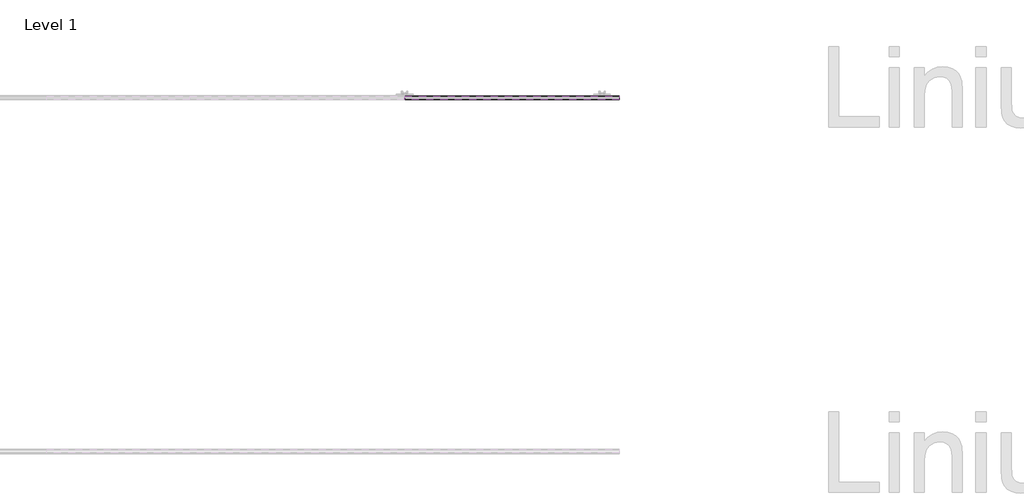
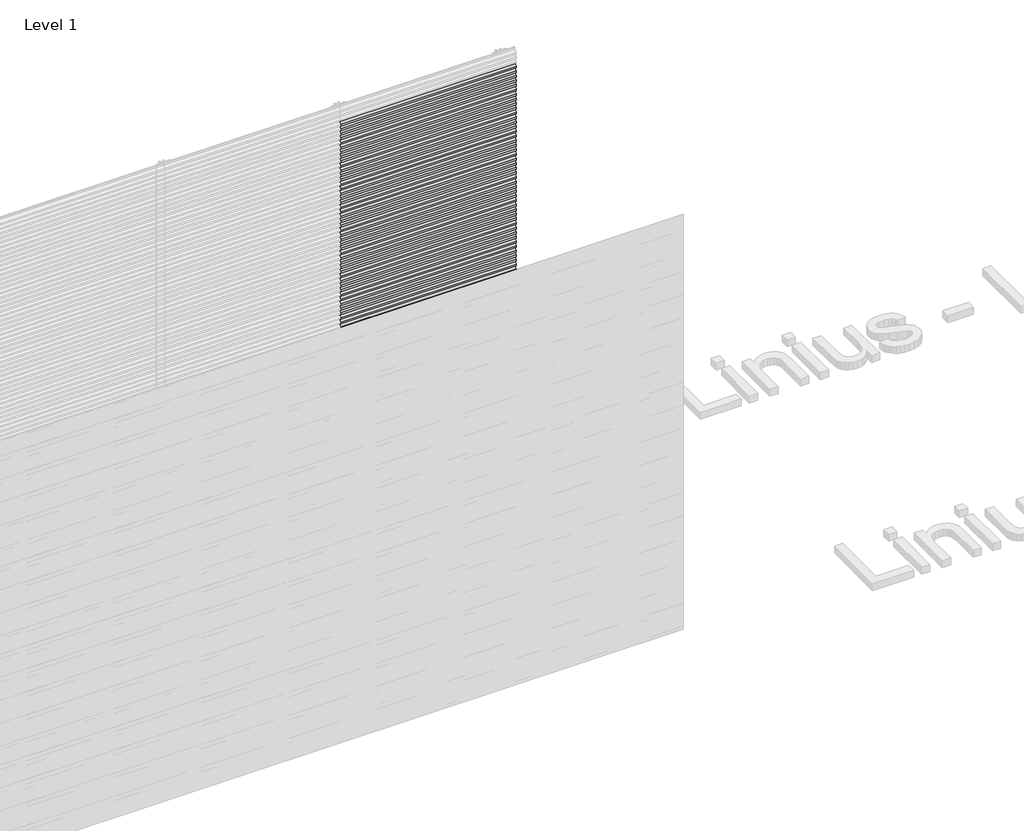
# One storey, part 22 of 507: 84 proxies.
"""IFC4 building model written with IfcOpenShell, lengths in millimetres."""

from ifc_helpers import new_model, si_unit, frame, origin, place, context, project, spatial, polyline, outline, extrude, element, save

model = new_model("IFC4")

# Units and contexts
model_context = context("Model", 3, world=origin())
ifc_project = project(units=[si_unit("LENGTHUNIT", "METRE", prefix="MILLI")], contexts=[model_context])

# Site, building, storey
site = spatial("IfcSite", under=ifc_project)
building = spatial("IfcBuilding", under=site)
storey = spatial("IfcBuildingStorey", under=building, Name="Level 1", Elevation=0.0)

# Proxies
placement = place(None, origin())
element("IfcBuildingElementProxy", 1, Name="Wall Sweeps", at=placement, inside=storey, context=model_context, shape_type="SweptSolid", body=[
    extrude(outline(polyline([(6962.6270068, 2873.1), (6981.7770068, 2884.1562577), (6981.7770068, 2897.1), (6983.0270068, 2897.1), (6983.0270068, 2883.4345698), (6963.8770068, 2872.3782281), (6963.8770068, 2860.3216933), (6962.6270068, 2859.6), (6962.6270068, 2873.1)])), frame((49766.6208095, 0.0, 0.0), z_axis=(1.0, 0.0, 0.0), x_axis=(0.0, 1.0, 0.0)), (0.0, 0.0, 1.0), 1200.0000002),
])
element("IfcBuildingElementProxy", 2, Name="Wall Sweeps", at=placement, inside=storey, context=model_context, shape_type="SweptSolid", body=[
    extrude(outline(polyline([(6962.6270068, 2839.8), (6981.7770068, 2850.8562577), (6981.7770068, 2863.8), (6983.0270068, 2863.8), (6983.0270068, 2850.1345698), (6963.8770068, 2839.0782281), (6963.8770068, 2827.0216933), (6962.6270068, 2826.3), (6962.6270068, 2839.8)])), frame((49766.6208095, 0.0, 0.0), z_axis=(1.0, 0.0, 0.0), x_axis=(0.0, 1.0, 0.0)), (0.0, 0.0, 1.0), 1200.0000002),
])
element("IfcBuildingElementProxy", 3, Name="Wall Sweeps", at=placement, inside=storey, context=model_context, shape_type="SweptSolid", body=[
    extrude(outline(polyline([(6962.6270068, 2806.5), (6981.7770068, 2817.5562577), (6981.7770068, 2830.5), (6983.0270068, 2830.5), (6983.0270068, 2816.8345698), (6963.8770068, 2805.7782281), (6963.8770068, 2793.7216933), (6962.6270068, 2793.0), (6962.6270068, 2806.5)])), frame((49766.6208095, 0.0, 0.0), z_axis=(1.0, 0.0, 0.0), x_axis=(0.0, 1.0, 0.0)), (0.0, 0.0, 1.0), 1200.0000002),
])
element("IfcBuildingElementProxy", 4, Name="Wall Sweeps", at=placement, inside=storey, context=model_context, shape_type="SweptSolid", body=[
    extrude(outline(polyline([(6962.6270068, 2773.2), (6981.7770068, 2784.2562577), (6981.7770068, 2797.2), (6983.0270068, 2797.2), (6983.0270068, 2783.5345698), (6963.8770068, 2772.4782281), (6963.8770068, 2760.4216933), (6962.6270068, 2759.7), (6962.6270068, 2773.2)])), frame((49766.6208095, 0.0, 0.0), z_axis=(1.0, 0.0, 0.0), x_axis=(0.0, 1.0, 0.0)), (0.0, 0.0, 1.0), 1200.0000002),
])
element("IfcBuildingElementProxy", 5, Name="Wall Sweeps", at=placement, inside=storey, context=model_context, shape_type="SweptSolid", body=[
    extrude(outline(polyline([(6962.6270068, 2739.9), (6981.7770068, 2750.9562577), (6981.7770068, 2763.9), (6983.0270068, 2763.9), (6983.0270068, 2750.2345698), (6963.8770068, 2739.1782281), (6963.8770068, 2727.1216933), (6962.6270068, 2726.4), (6962.6270068, 2739.9)])), frame((49766.6208095, 0.0, 0.0), z_axis=(1.0, 0.0, 0.0), x_axis=(0.0, 1.0, 0.0)), (0.0, 0.0, 1.0), 1200.0000002),
])
element("IfcBuildingElementProxy", 6, Name="Wall Sweeps", at=placement, inside=storey, context=model_context, shape_type="SweptSolid", body=[
    extrude(outline(polyline([(6962.6270068, 2706.6), (6981.7770068, 2717.6562577), (6981.7770068, 2730.6), (6983.0270068, 2730.6), (6983.0270068, 2716.9345698), (6963.8770068, 2705.8782281), (6963.8770068, 2693.8216933), (6962.6270068, 2693.1), (6962.6270068, 2706.6)])), frame((49766.6208095, 0.0, 0.0), z_axis=(1.0, 0.0, 0.0), x_axis=(0.0, 1.0, 0.0)), (0.0, 0.0, 1.0), 1200.0000002),
])
element("IfcBuildingElementProxy", 7, Name="Wall Sweeps", at=placement, inside=storey, context=model_context, shape_type="SweptSolid", body=[
    extrude(outline(polyline([(6962.6270068, 2673.3), (6981.7770068, 2684.3562577), (6981.7770068, 2697.3), (6983.0270068, 2697.3), (6983.0270068, 2683.6345698), (6963.8770068, 2672.5782281), (6963.8770068, 2660.5216933), (6962.6270068, 2659.8), (6962.6270068, 2673.3)])), frame((49766.6208095, 0.0, 0.0), z_axis=(1.0, 0.0, 0.0), x_axis=(0.0, 1.0, 0.0)), (0.0, 0.0, 1.0), 1200.0000002),
])
element("IfcBuildingElementProxy", 8, Name="Wall Sweeps", at=placement, inside=storey, context=model_context, shape_type="SweptSolid", body=[
    extrude(outline(polyline([(6962.6270068, 2640.0), (6981.7770068, 2651.0562577), (6981.7770068, 2664.0), (6983.0270068, 2664.0), (6983.0270068, 2650.3345698), (6963.8770068, 2639.2782281), (6963.8770068, 2627.2216933), (6962.6270068, 2626.5), (6962.6270068, 2640.0)])), frame((49766.6208095, 0.0, 0.0), z_axis=(1.0, 0.0, 0.0), x_axis=(0.0, 1.0, 0.0)), (0.0, 0.0, 1.0), 1200.0000002),
])
element("IfcBuildingElementProxy", 9, Name="Wall Sweeps", at=placement, inside=storey, context=model_context, shape_type="SweptSolid", body=[
    extrude(outline(polyline([(6962.6270068, 2606.7), (6981.7770068, 2617.7562577), (6981.7770068, 2630.7), (6983.0270068, 2630.7), (6983.0270068, 2617.0345698), (6963.8770068, 2605.9782281), (6963.8770068, 2593.9216933), (6962.6270068, 2593.2), (6962.6270068, 2606.7)])), frame((49766.6208095, 0.0, 0.0), z_axis=(1.0, 0.0, 0.0), x_axis=(0.0, 1.0, 0.0)), (0.0, 0.0, 1.0), 1200.0000002),
])
element("IfcBuildingElementProxy", 10, Name="Wall Sweeps", at=placement, inside=storey, context=model_context, shape_type="SweptSolid", body=[
    extrude(outline(polyline([(6962.6270068, 2573.4), (6981.7770068, 2584.4562577), (6981.7770068, 2597.4), (6983.0270068, 2597.4), (6983.0270068, 2583.7345698), (6963.8770068, 2572.6782281), (6963.8770068, 2560.6216933), (6962.6270068, 2559.9), (6962.6270068, 2573.4)])), frame((49766.6208095, 0.0, 0.0), z_axis=(1.0, 0.0, 0.0), x_axis=(0.0, 1.0, 0.0)), (0.0, 0.0, 1.0), 1200.0000002),
])
element("IfcBuildingElementProxy", 11, Name="Wall Sweeps", at=placement, inside=storey, context=model_context, shape_type="SweptSolid", body=[
    extrude(outline(polyline([(6962.6270068, 2540.1), (6981.7770068, 2551.1562577), (6981.7770068, 2564.1), (6983.0270068, 2564.1), (6983.0270068, 2550.4345698), (6963.8770068, 2539.3782281), (6963.8770068, 2527.3216933), (6962.6270068, 2526.6), (6962.6270068, 2540.1)])), frame((49766.6208095, 0.0, 0.0), z_axis=(1.0, 0.0, 0.0), x_axis=(0.0, 1.0, 0.0)), (0.0, 0.0, 1.0), 1200.0000002),
])
element("IfcBuildingElementProxy", 12, Name="Wall Sweeps", at=placement, inside=storey, context=model_context, shape_type="SweptSolid", body=[
    extrude(outline(polyline([(6962.6270068, 2506.8), (6981.7770068, 2517.8562577), (6981.7770068, 2530.8), (6983.0270068, 2530.8), (6983.0270068, 2517.1345698), (6963.8770068, 2506.0782281), (6963.8770068, 2494.0216933), (6962.6270068, 2493.3), (6962.6270068, 2506.8)])), frame((49766.6208095, 0.0, 0.0), z_axis=(1.0, 0.0, 0.0), x_axis=(0.0, 1.0, 0.0)), (0.0, 0.0, 1.0), 1200.0000002),
])
element("IfcBuildingElementProxy", 13, Name="Wall Sweeps", at=placement, inside=storey, context=model_context, shape_type="SweptSolid", body=[
    extrude(outline(polyline([(6962.6270068, 2473.5), (6981.7770068, 2484.5562577), (6981.7770068, 2497.5), (6983.0270068, 2497.5), (6983.0270068, 2483.8345698), (6963.8770068, 2472.7782281), (6963.8770068, 2460.7216933), (6962.6270068, 2460.0), (6962.6270068, 2473.5)])), frame((49766.6208095, 0.0, 0.0), z_axis=(1.0, 0.0, 0.0), x_axis=(0.0, 1.0, 0.0)), (0.0, 0.0, 1.0), 1200.0000002),
])
element("IfcBuildingElementProxy", 14, Name="Wall Sweeps", at=placement, inside=storey, context=model_context, shape_type="SweptSolid", body=[
    extrude(outline(polyline([(6962.6270068, 2440.2), (6981.7770068, 2451.2562577), (6981.7770068, 2464.2), (6983.0270068, 2464.2), (6983.0270068, 2450.5345698), (6963.8770068, 2439.4782281), (6963.8770068, 2427.4216933), (6962.6270068, 2426.7), (6962.6270068, 2440.2)])), frame((49766.6208095, 0.0, 0.0), z_axis=(1.0, 0.0, 0.0), x_axis=(0.0, 1.0, 0.0)), (0.0, 0.0, 1.0), 1200.0000002),
])
element("IfcBuildingElementProxy", 15, Name="Wall Sweeps", at=placement, inside=storey, context=model_context, shape_type="SweptSolid", body=[
    extrude(outline(polyline([(6962.6270068, 2406.9), (6981.7770068, 2417.9562577), (6981.7770068, 2430.9), (6983.0270068, 2430.9), (6983.0270068, 2417.2345698), (6963.8770068, 2406.1782281), (6963.8770068, 2394.1216933), (6962.6270068, 2393.4), (6962.6270068, 2406.9)])), frame((49766.6208095, 0.0, 0.0), z_axis=(1.0, 0.0, 0.0), x_axis=(0.0, 1.0, 0.0)), (0.0, 0.0, 1.0), 1200.0000002),
])
element("IfcBuildingElementProxy", 16, Name="Wall Sweeps", at=placement, inside=storey, context=model_context, shape_type="SweptSolid", body=[
    extrude(outline(polyline([(6962.6270068, 2373.6), (6981.7770068, 2384.6562577), (6981.7770068, 2397.6), (6983.0270068, 2397.6), (6983.0270068, 2383.9345698), (6963.8770068, 2372.8782281), (6963.8770068, 2360.8216933), (6962.6270068, 2360.1), (6962.6270068, 2373.6)])), frame((49766.6208095, 0.0, 0.0), z_axis=(1.0, 0.0, 0.0), x_axis=(0.0, 1.0, 0.0)), (0.0, 0.0, 1.0), 1200.0000002),
])
element("IfcBuildingElementProxy", 17, Name="Wall Sweeps", at=placement, inside=storey, context=model_context, shape_type="SweptSolid", body=[
    extrude(outline(polyline([(6962.6270068, 2340.3), (6981.7770068, 2351.3562577), (6981.7770068, 2364.3), (6983.0270068, 2364.3), (6983.0270068, 2350.6345698), (6963.8770068, 2339.5782281), (6963.8770068, 2327.5216933), (6962.6270068, 2326.8), (6962.6270068, 2340.3)])), frame((49766.6208095, 0.0, 0.0), z_axis=(1.0, 0.0, 0.0), x_axis=(0.0, 1.0, 0.0)), (0.0, 0.0, 1.0), 1200.0000002),
])
element("IfcBuildingElementProxy", 18, Name="Wall Sweeps", at=placement, inside=storey, context=model_context, shape_type="SweptSolid", body=[
    extrude(outline(polyline([(6962.6270068, 2307.0), (6981.7770068, 2318.0562577), (6981.7770068, 2331.0), (6983.0270068, 2331.0), (6983.0270068, 2317.3345698), (6963.8770068, 2306.2782281), (6963.8770068, 2294.2216933), (6962.6270068, 2293.5), (6962.6270068, 2307.0)])), frame((49766.6208095, 0.0, 0.0), z_axis=(1.0, 0.0, 0.0), x_axis=(0.0, 1.0, 0.0)), (0.0, 0.0, 1.0), 1200.0000002),
])
element("IfcBuildingElementProxy", 19, Name="Wall Sweeps", at=placement, inside=storey, context=model_context, shape_type="SweptSolid", body=[
    extrude(outline(polyline([(6962.6270068, 2273.7), (6981.7770068, 2284.7562577), (6981.7770068, 2297.7), (6983.0270068, 2297.7), (6983.0270068, 2284.0345698), (6963.8770068, 2272.9782281), (6963.8770068, 2260.9216933), (6962.6270068, 2260.2), (6962.6270068, 2273.7)])), frame((49766.6208095, 0.0, 0.0), z_axis=(1.0, 0.0, 0.0), x_axis=(0.0, 1.0, 0.0)), (0.0, 0.0, 1.0), 1200.0000002),
])
element("IfcBuildingElementProxy", 20, Name="Wall Sweeps", at=placement, inside=storey, context=model_context, shape_type="SweptSolid", body=[
    extrude(outline(polyline([(6962.6270068, 2240.4), (6981.7770068, 2251.4562577), (6981.7770068, 2264.4), (6983.0270068, 2264.4), (6983.0270068, 2250.7345698), (6963.8770068, 2239.6782281), (6963.8770068, 2227.6216933), (6962.6270068, 2226.9), (6962.6270068, 2240.4)])), frame((49766.6208095, 0.0, 0.0), z_axis=(1.0, 0.0, 0.0), x_axis=(0.0, 1.0, 0.0)), (0.0, 0.0, 1.0), 1200.0000002),
])
element("IfcBuildingElementProxy", 21, Name="Wall Sweeps", at=placement, inside=storey, context=model_context, shape_type="SweptSolid", body=[
    extrude(outline(polyline([(6962.6270068, 2207.1), (6981.7770068, 2218.1562577), (6981.7770068, 2231.1), (6983.0270068, 2231.1), (6983.0270068, 2217.4345698), (6963.8770068, 2206.3782281), (6963.8770068, 2194.3216933), (6962.6270068, 2193.6), (6962.6270068, 2207.1)])), frame((49766.6208095, 0.0, 0.0), z_axis=(1.0, 0.0, 0.0), x_axis=(0.0, 1.0, 0.0)), (0.0, 0.0, 1.0), 1200.0000002),
])
element("IfcBuildingElementProxy", 22, Name="Wall Sweeps", at=placement, inside=storey, context=model_context, shape_type="SweptSolid", body=[
    extrude(outline(polyline([(6962.6270068, 2173.8), (6981.7770068, 2184.8562577), (6981.7770068, 2197.8), (6983.0270068, 2197.8), (6983.0270068, 2184.1345698), (6963.8770068, 2173.0782281), (6963.8770068, 2161.0216933), (6962.6270068, 2160.3), (6962.6270068, 2173.8)])), frame((49766.6208095, 0.0, 0.0), z_axis=(1.0, 0.0, 0.0), x_axis=(0.0, 1.0, 0.0)), (0.0, 0.0, 1.0), 1200.0000002),
])
element("IfcBuildingElementProxy", 23, Name="Wall Sweeps", at=placement, inside=storey, context=model_context, shape_type="SweptSolid", body=[
    extrude(outline(polyline([(6962.6270068, 2140.5), (6981.7770068, 2151.5562577), (6981.7770068, 2164.5), (6983.0270068, 2164.5), (6983.0270068, 2150.8345698), (6963.8770068, 2139.7782281), (6963.8770068, 2127.7216933), (6962.6270068, 2127.0), (6962.6270068, 2140.5)])), frame((49766.6208095, 0.0, 0.0), z_axis=(1.0, 0.0, 0.0), x_axis=(0.0, 1.0, 0.0)), (0.0, 0.0, 1.0), 1200.0000002),
])
element("IfcBuildingElementProxy", 24, Name="Wall Sweeps", at=placement, inside=storey, context=model_context, shape_type="SweptSolid", body=[
    extrude(outline(polyline([(6962.6270068, 2107.2), (6981.7770068, 2118.2562577), (6981.7770068, 2131.2), (6983.0270068, 2131.2), (6983.0270068, 2117.5345698), (6963.8770068, 2106.4782281), (6963.8770068, 2094.4216933), (6962.6270068, 2093.7), (6962.6270068, 2107.2)])), frame((49766.6208095, 0.0, 0.0), z_axis=(1.0, 0.0, 0.0), x_axis=(0.0, 1.0, 0.0)), (0.0, 0.0, 1.0), 1200.0000002),
])
element("IfcBuildingElementProxy", 25, Name="Wall Sweeps", at=placement, inside=storey, context=model_context, shape_type="SweptSolid", body=[
    extrude(outline(polyline([(6962.6270068, 2073.9), (6981.7770068, 2084.9562577), (6981.7770068, 2097.9), (6983.0270068, 2097.9), (6983.0270068, 2084.2345698), (6963.8770068, 2073.1782281), (6963.8770068, 2061.1216933), (6962.6270068, 2060.4), (6962.6270068, 2073.9)])), frame((49766.6208095, 0.0, 0.0), z_axis=(1.0, 0.0, 0.0), x_axis=(0.0, 1.0, 0.0)), (0.0, 0.0, 1.0), 1200.0000002),
])
element("IfcBuildingElementProxy", 26, Name="Wall Sweeps", at=placement, inside=storey, context=model_context, shape_type="SweptSolid", body=[
    extrude(outline(polyline([(6962.6270068, 2040.6), (6981.7770068, 2051.6562577), (6981.7770068, 2064.6), (6983.0270068, 2064.6), (6983.0270068, 2050.9345698), (6963.8770068, 2039.8782281), (6963.8770068, 2027.8216933), (6962.6270068, 2027.1), (6962.6270068, 2040.6)])), frame((49766.6208095, 0.0, 0.0), z_axis=(1.0, 0.0, 0.0), x_axis=(0.0, 1.0, 0.0)), (0.0, 0.0, 1.0), 1200.0000002),
])
element("IfcBuildingElementProxy", 27, Name="Wall Sweeps", at=placement, inside=storey, context=model_context, shape_type="SweptSolid", body=[
    extrude(outline(polyline([(6962.6270068, 2007.3), (6981.7770068, 2018.3562577), (6981.7770068, 2031.3), (6983.0270068, 2031.3), (6983.0270068, 2017.6345698), (6963.8770068, 2006.5782281), (6963.8770068, 1994.5216933), (6962.6270068, 1993.8), (6962.6270068, 2007.3)])), frame((49766.6208095, 0.0, 0.0), z_axis=(1.0, 0.0, 0.0), x_axis=(0.0, 1.0, 0.0)), (0.0, 0.0, 1.0), 1200.0000002),
])
element("IfcBuildingElementProxy", 28, Name="Wall Sweeps", at=placement, inside=storey, context=model_context, shape_type="SweptSolid", body=[
    extrude(outline(polyline([(6962.6270068, 1974.0), (6981.7770068, 1985.0562577), (6981.7770068, 1998.0), (6983.0270068, 1998.0), (6983.0270068, 1984.3345698), (6963.8770068, 1973.2782281), (6963.8770068, 1961.2216933), (6962.6270068, 1960.5), (6962.6270068, 1974.0)])), frame((49766.6208095, 0.0, 0.0), z_axis=(1.0, 0.0, 0.0), x_axis=(0.0, 1.0, 0.0)), (0.0, 0.0, 1.0), 1200.0000002),
])
element("IfcBuildingElementProxy", 29, Name="Wall Sweeps", at=placement, inside=storey, context=model_context, shape_type="SweptSolid", body=[
    extrude(outline(polyline([(6962.6270068, 1940.7), (6981.7770068, 1951.7562577), (6981.7770068, 1964.7), (6983.0270068, 1964.7), (6983.0270068, 1951.0345698), (6963.8770068, 1939.9782281), (6963.8770068, 1927.9216933), (6962.6270068, 1927.2), (6962.6270068, 1940.7)])), frame((49766.6208095, 0.0, 0.0), z_axis=(1.0, 0.0, 0.0), x_axis=(0.0, 1.0, 0.0)), (0.0, 0.0, 1.0), 1200.0000002),
])
element("IfcBuildingElementProxy", 30, Name="Wall Sweeps", at=placement, inside=storey, context=model_context, shape_type="SweptSolid", body=[
    extrude(outline(polyline([(6962.6270068, 1907.4), (6981.7770068, 1918.4562577), (6981.7770068, 1931.4), (6983.0270068, 1931.4), (6983.0270068, 1917.7345698), (6963.8770068, 1906.6782281), (6963.8770068, 1894.6216933), (6962.6270068, 1893.9), (6962.6270068, 1907.4)])), frame((49766.6208095, 0.0, 0.0), z_axis=(1.0, 0.0, 0.0), x_axis=(0.0, 1.0, 0.0)), (0.0, 0.0, 1.0), 1200.0000002),
])
element("IfcBuildingElementProxy", 31, Name="Wall Sweeps", at=placement, inside=storey, context=model_context, shape_type="SweptSolid", body=[
    extrude(outline(polyline([(6962.6270068, 1874.1), (6981.7770068, 1885.1562577), (6981.7770068, 1898.1), (6983.0270068, 1898.1), (6983.0270068, 1884.4345698), (6963.8770068, 1873.3782281), (6963.8770068, 1861.3216933), (6962.6270068, 1860.6), (6962.6270068, 1874.1)])), frame((49766.6208095, 0.0, 0.0), z_axis=(1.0, 0.0, 0.0), x_axis=(0.0, 1.0, 0.0)), (0.0, 0.0, 1.0), 1200.0000002),
])
element("IfcBuildingElementProxy", 32, Name="Wall Sweeps", at=placement, inside=storey, context=model_context, shape_type="SweptSolid", body=[
    extrude(outline(polyline([(6962.6270068, 1840.8), (6981.7770068, 1851.8562577), (6981.7770068, 1864.8), (6983.0270068, 1864.8), (6983.0270068, 1851.1345698), (6963.8770068, 1840.0782281), (6963.8770068, 1828.0216933), (6962.6270068, 1827.3), (6962.6270068, 1840.8)])), frame((49766.6208095, 0.0, 0.0), z_axis=(1.0, 0.0, 0.0), x_axis=(0.0, 1.0, 0.0)), (0.0, 0.0, 1.0), 1200.0000002),
])
element("IfcBuildingElementProxy", 33, Name="Wall Sweeps", at=placement, inside=storey, context=model_context, shape_type="SweptSolid", body=[
    extrude(outline(polyline([(6962.6270068, 1807.5), (6981.7770068, 1818.5562577), (6981.7770068, 1831.5), (6983.0270068, 1831.5), (6983.0270068, 1817.8345698), (6963.8770068, 1806.7782281), (6963.8770068, 1794.7216933), (6962.6270068, 1794.0), (6962.6270068, 1807.5)])), frame((49766.6208095, 0.0, 0.0), z_axis=(1.0, 0.0, 0.0), x_axis=(0.0, 1.0, 0.0)), (0.0, 0.0, 1.0), 1200.0000002),
])
element("IfcBuildingElementProxy", 34, Name="Wall Sweeps", at=placement, inside=storey, context=model_context, shape_type="SweptSolid", body=[
    extrude(outline(polyline([(6962.6270068, 1774.2), (6981.7770068, 1785.2562577), (6981.7770068, 1798.2), (6983.0270068, 1798.2), (6983.0270068, 1784.5345698), (6963.8770068, 1773.4782281), (6963.8770068, 1761.4216933), (6962.6270068, 1760.7), (6962.6270068, 1774.2)])), frame((49766.6208095, 0.0, 0.0), z_axis=(1.0, 0.0, 0.0), x_axis=(0.0, 1.0, 0.0)), (0.0, 0.0, 1.0), 1200.0000002),
])
element("IfcBuildingElementProxy", 35, Name="Wall Sweeps", at=placement, inside=storey, context=model_context, shape_type="SweptSolid", body=[
    extrude(outline(polyline([(6962.6270068, 1740.9), (6981.7770068, 1751.9562577), (6981.7770068, 1764.9), (6983.0270068, 1764.9), (6983.0270068, 1751.2345698), (6963.8770068, 1740.1782281), (6963.8770068, 1728.1216933), (6962.6270068, 1727.4), (6962.6270068, 1740.9)])), frame((49766.6208095, 0.0, 0.0), z_axis=(1.0, 0.0, 0.0), x_axis=(0.0, 1.0, 0.0)), (0.0, 0.0, 1.0), 1200.0000002),
])
element("IfcBuildingElementProxy", 36, Name="Wall Sweeps", at=placement, inside=storey, context=model_context, shape_type="SweptSolid", body=[
    extrude(outline(polyline([(6962.6270068, 1707.6), (6981.7770068, 1718.6562577), (6981.7770068, 1731.6), (6983.0270068, 1731.6), (6983.0270068, 1717.9345698), (6963.8770068, 1706.8782281), (6963.8770068, 1694.8216933), (6962.6270068, 1694.1), (6962.6270068, 1707.6)])), frame((49766.6208095, 0.0, 0.0), z_axis=(1.0, 0.0, 0.0), x_axis=(0.0, 1.0, 0.0)), (0.0, 0.0, 1.0), 1200.0000002),
])
element("IfcBuildingElementProxy", 37, Name="Wall Sweeps", at=placement, inside=storey, context=model_context, shape_type="SweptSolid", body=[
    extrude(outline(polyline([(6962.6270068, 1674.3), (6981.7770068, 1685.3562577), (6981.7770068, 1698.3), (6983.0270068, 1698.3), (6983.0270068, 1684.6345698), (6963.8770068, 1673.5782281), (6963.8770068, 1661.5216933), (6962.6270068, 1660.8), (6962.6270068, 1674.3)])), frame((49766.6208095, 0.0, 0.0), z_axis=(1.0, 0.0, 0.0), x_axis=(0.0, 1.0, 0.0)), (0.0, 0.0, 1.0), 1200.0000002),
])
element("IfcBuildingElementProxy", 38, Name="Wall Sweeps", at=placement, inside=storey, context=model_context, shape_type="SweptSolid", body=[
    extrude(outline(polyline([(6962.6270068, 1641.0), (6981.7770068, 1652.0562577), (6981.7770068, 1665.0), (6983.0270068, 1665.0), (6983.0270068, 1651.3345698), (6963.8770068, 1640.2782281), (6963.8770068, 1628.2216933), (6962.6270068, 1627.5), (6962.6270068, 1641.0)])), frame((49766.6208095, 0.0, 0.0), z_axis=(1.0, 0.0, 0.0), x_axis=(0.0, 1.0, 0.0)), (0.0, 0.0, 1.0), 1200.0000002),
])
element("IfcBuildingElementProxy", 39, Name="Wall Sweeps", at=placement, inside=storey, context=model_context, shape_type="SweptSolid", body=[
    extrude(outline(polyline([(6962.6270068, 1607.7), (6981.7770068, 1618.7562577), (6981.7770068, 1631.7), (6983.0270068, 1631.7), (6983.0270068, 1618.0345698), (6963.8770068, 1606.9782281), (6963.8770068, 1594.9216933), (6962.6270068, 1594.2), (6962.6270068, 1607.7)])), frame((49766.6208095, 0.0, 0.0), z_axis=(1.0, 0.0, 0.0), x_axis=(0.0, 1.0, 0.0)), (0.0, 0.0, 1.0), 1200.0000002),
])
element("IfcBuildingElementProxy", 40, Name="Wall Sweeps", at=placement, inside=storey, context=model_context, shape_type="SweptSolid", body=[
    extrude(outline(polyline([(6962.6270068, 1574.4), (6981.7770068, 1585.4562577), (6981.7770068, 1598.4), (6983.0270068, 1598.4), (6983.0270068, 1584.7345698), (6963.8770068, 1573.6782281), (6963.8770068, 1561.6216933), (6962.6270068, 1560.9), (6962.6270068, 1574.4)])), frame((49766.6208095, 0.0, 0.0), z_axis=(1.0, 0.0, 0.0), x_axis=(0.0, 1.0, 0.0)), (0.0, 0.0, 1.0), 1200.0000002),
])
element("IfcBuildingElementProxy", 41, Name="Wall Sweeps", at=placement, inside=storey, context=model_context, shape_type="SweptSolid", body=[
    extrude(outline(polyline([(6962.6270068, 1541.1), (6981.7770068, 1552.1562577), (6981.7770068, 1565.1), (6983.0270068, 1565.1), (6983.0270068, 1551.4345698), (6963.8770068, 1540.3782281), (6963.8770068, 1528.3216933), (6962.6270068, 1527.6), (6962.6270068, 1541.1)])), frame((49766.6208095, 0.0, 0.0), z_axis=(1.0, 0.0, 0.0), x_axis=(0.0, 1.0, 0.0)), (0.0, 0.0, 1.0), 1200.0000002),
])
element("IfcBuildingElementProxy", 42, Name="Wall Sweeps", at=placement, inside=storey, context=model_context, shape_type="SweptSolid", body=[
    extrude(outline(polyline([(6962.6270068, 1507.8), (6981.7770068, 1518.8562577), (6981.7770068, 1531.8), (6983.0270068, 1531.8), (6983.0270068, 1518.1345698), (6963.8770068, 1507.0782281), (6963.8770068, 1495.0216933), (6962.6270068, 1494.3), (6962.6270068, 1507.8)])), frame((49766.6208095, 0.0, 0.0), z_axis=(1.0, 0.0, 0.0), x_axis=(0.0, 1.0, 0.0)), (0.0, 0.0, 1.0), 1200.0000002),
])
element("IfcBuildingElementProxy", 43, Name="Wall Sweeps", at=placement, inside=storey, context=model_context, shape_type="SweptSolid", body=[
    extrude(outline(polyline([(6962.6270068, 1474.5), (6981.7770068, 1485.5562577), (6981.7770068, 1498.5), (6983.0270068, 1498.5), (6983.0270068, 1484.8345698), (6963.8770068, 1473.7782281), (6963.8770068, 1461.7216933), (6962.6270068, 1461.0), (6962.6270068, 1474.5)])), frame((49766.6208095, 0.0, 0.0), z_axis=(1.0, 0.0, 0.0), x_axis=(0.0, 1.0, 0.0)), (0.0, 0.0, 1.0), 1200.0000002),
])
element("IfcBuildingElementProxy", 44, Name="Wall Sweeps", at=placement, inside=storey, context=model_context, shape_type="SweptSolid", body=[
    extrude(outline(polyline([(6962.6270068, 1441.2), (6981.7770068, 1452.2562577), (6981.7770068, 1465.2), (6983.0270068, 1465.2), (6983.0270068, 1451.5345698), (6963.8770068, 1440.4782281), (6963.8770068, 1428.4216933), (6962.6270068, 1427.7), (6962.6270068, 1441.2)])), frame((49766.6208095, 0.0, 0.0), z_axis=(1.0, 0.0, 0.0), x_axis=(0.0, 1.0, 0.0)), (0.0, 0.0, 1.0), 1200.0000002),
])
element("IfcBuildingElementProxy", 45, Name="Wall Sweeps", at=placement, inside=storey, context=model_context, shape_type="SweptSolid", body=[
    extrude(outline(polyline([(6962.6270068, 1407.9), (6981.7770068, 1418.9562577), (6981.7770068, 1431.9), (6983.0270068, 1431.9), (6983.0270068, 1418.2345698), (6963.8770068, 1407.1782281), (6963.8770068, 1395.1216933), (6962.6270068, 1394.4), (6962.6270068, 1407.9)])), frame((49766.6208095, 0.0, 0.0), z_axis=(1.0, 0.0, 0.0), x_axis=(0.0, 1.0, 0.0)), (0.0, 0.0, 1.0), 1200.0000002),
])
element("IfcBuildingElementProxy", 46, Name="Wall Sweeps", at=placement, inside=storey, context=model_context, shape_type="SweptSolid", body=[
    extrude(outline(polyline([(6962.6270068, 1374.6), (6981.7770068, 1385.6562577), (6981.7770068, 1398.6), (6983.0270068, 1398.6), (6983.0270068, 1384.9345698), (6963.8770068, 1373.8782281), (6963.8770068, 1361.8216933), (6962.6270068, 1361.1), (6962.6270068, 1374.6)])), frame((49766.6208095, 0.0, 0.0), z_axis=(1.0, 0.0, 0.0), x_axis=(0.0, 1.0, 0.0)), (0.0, 0.0, 1.0), 1200.0000002),
])
element("IfcBuildingElementProxy", 47, Name="Wall Sweeps", at=placement, inside=storey, context=model_context, shape_type="SweptSolid", body=[
    extrude(outline(polyline([(6962.6270068, 1341.3), (6981.7770068, 1352.3562577), (6981.7770068, 1365.3), (6983.0270068, 1365.3), (6983.0270068, 1351.6345698), (6963.8770068, 1340.5782281), (6963.8770068, 1328.5216933), (6962.6270068, 1327.8), (6962.6270068, 1341.3)])), frame((49766.6208095, 0.0, 0.0), z_axis=(1.0, 0.0, 0.0), x_axis=(0.0, 1.0, 0.0)), (0.0, 0.0, 1.0), 1200.0000002),
])
element("IfcBuildingElementProxy", 48, Name="Wall Sweeps", at=placement, inside=storey, context=model_context, shape_type="SweptSolid", body=[
    extrude(outline(polyline([(6962.6270068, 1308.0), (6981.7770068, 1319.0562577), (6981.7770068, 1332.0), (6983.0270068, 1332.0), (6983.0270068, 1318.3345698), (6963.8770068, 1307.2782281), (6963.8770068, 1295.2216933), (6962.6270068, 1294.5), (6962.6270068, 1308.0)])), frame((49766.6208095, 0.0, 0.0), z_axis=(1.0, 0.0, 0.0), x_axis=(0.0, 1.0, 0.0)), (0.0, 0.0, 1.0), 1200.0000002),
])
element("IfcBuildingElementProxy", 49, Name="Wall Sweeps", at=placement, inside=storey, context=model_context, shape_type="SweptSolid", body=[
    extrude(outline(polyline([(6962.6270068, 1274.7), (6981.7770068, 1285.7562577), (6981.7770068, 1298.7), (6983.0270068, 1298.7), (6983.0270068, 1285.0345698), (6963.8770068, 1273.9782281), (6963.8770068, 1261.9216933), (6962.6270068, 1261.2), (6962.6270068, 1274.7)])), frame((49766.6208095, 0.0, 0.0), z_axis=(1.0, 0.0, 0.0), x_axis=(0.0, 1.0, 0.0)), (0.0, 0.0, 1.0), 1200.0000002),
])
element("IfcBuildingElementProxy", 50, Name="Wall Sweeps", at=placement, inside=storey, context=model_context, shape_type="SweptSolid", body=[
    extrude(outline(polyline([(6962.6270068, 1241.4), (6981.7770068, 1252.4562577), (6981.7770068, 1265.4), (6983.0270068, 1265.4), (6983.0270068, 1251.7345698), (6963.8770068, 1240.6782281), (6963.8770068, 1228.6216933), (6962.6270068, 1227.9), (6962.6270068, 1241.4)])), frame((49766.6208095, 0.0, 0.0), z_axis=(1.0, 0.0, 0.0), x_axis=(0.0, 1.0, 0.0)), (0.0, 0.0, 1.0), 1200.0000002),
])
element("IfcBuildingElementProxy", 51, Name="Wall Sweeps", at=placement, inside=storey, context=model_context, shape_type="SweptSolid", body=[
    extrude(outline(polyline([(6962.6270068, 1208.1), (6981.7770068, 1219.1562577), (6981.7770068, 1232.1), (6983.0270068, 1232.1), (6983.0270068, 1218.4345698), (6963.8770068, 1207.3782281), (6963.8770068, 1195.3216933), (6962.6270068, 1194.6), (6962.6270068, 1208.1)])), frame((49766.6208095, 0.0, 0.0), z_axis=(1.0, 0.0, 0.0), x_axis=(0.0, 1.0, 0.0)), (0.0, 0.0, 1.0), 1200.0000002),
])
element("IfcBuildingElementProxy", 52, Name="Wall Sweeps", at=placement, inside=storey, context=model_context, shape_type="SweptSolid", body=[
    extrude(outline(polyline([(6962.6270068, 1174.8), (6981.7770068, 1185.8562577), (6981.7770068, 1198.8), (6983.0270068, 1198.8), (6983.0270068, 1185.1345698), (6963.8770068, 1174.0782281), (6963.8770068, 1162.0216933), (6962.6270068, 1161.3), (6962.6270068, 1174.8)])), frame((49766.6208095, 0.0, 0.0), z_axis=(1.0, 0.0, 0.0), x_axis=(0.0, 1.0, 0.0)), (0.0, 0.0, 1.0), 1200.0000002),
])
element("IfcBuildingElementProxy", 53, Name="Wall Sweeps", at=placement, inside=storey, context=model_context, shape_type="SweptSolid", body=[
    extrude(outline(polyline([(6962.6270068, 1141.5), (6981.7770068, 1152.5562577), (6981.7770068, 1165.5), (6983.0270068, 1165.5), (6983.0270068, 1151.8345698), (6963.8770068, 1140.7782281), (6963.8770068, 1128.7216933), (6962.6270068, 1128.0), (6962.6270068, 1141.5)])), frame((49766.6208095, 0.0, 0.0), z_axis=(1.0, 0.0, 0.0), x_axis=(0.0, 1.0, 0.0)), (0.0, 0.0, 1.0), 1200.0000002),
])
element("IfcBuildingElementProxy", 54, Name="Wall Sweeps", at=placement, inside=storey, context=model_context, shape_type="SweptSolid", body=[
    extrude(outline(polyline([(6962.6270068, 1108.2), (6981.7770068, 1119.2562577), (6981.7770068, 1132.2), (6983.0270068, 1132.2), (6983.0270068, 1118.5345698), (6963.8770068, 1107.4782281), (6963.8770068, 1095.4216933), (6962.6270068, 1094.7), (6962.6270068, 1108.2)])), frame((49766.6208095, 0.0, 0.0), z_axis=(1.0, 0.0, 0.0), x_axis=(0.0, 1.0, 0.0)), (0.0, 0.0, 1.0), 1200.0000002),
])
element("IfcBuildingElementProxy", 55, Name="Wall Sweeps", at=placement, inside=storey, context=model_context, shape_type="SweptSolid", body=[
    extrude(outline(polyline([(6962.6270068, 1074.9), (6981.7770068, 1085.9562577), (6981.7770068, 1098.9), (6983.0270068, 1098.9), (6983.0270068, 1085.2345698), (6963.8770068, 1074.1782281), (6963.8770068, 1062.1216933), (6962.6270068, 1061.4), (6962.6270068, 1074.9)])), frame((49766.6208095, 0.0, 0.0), z_axis=(1.0, 0.0, 0.0), x_axis=(0.0, 1.0, 0.0)), (0.0, 0.0, 1.0), 1200.0000002),
])
element("IfcBuildingElementProxy", 56, Name="Wall Sweeps", at=placement, inside=storey, context=model_context, shape_type="SweptSolid", body=[
    extrude(outline(polyline([(6962.6270068, 1041.6), (6981.7770068, 1052.6562577), (6981.7770068, 1065.6), (6983.0270068, 1065.6), (6983.0270068, 1051.9345698), (6963.8770068, 1040.8782281), (6963.8770068, 1028.8216933), (6962.6270068, 1028.1), (6962.6270068, 1041.6)])), frame((49766.6208095, 0.0, 0.0), z_axis=(1.0, 0.0, 0.0), x_axis=(0.0, 1.0, 0.0)), (0.0, 0.0, 1.0), 1200.0000002),
])
element("IfcBuildingElementProxy", 57, Name="Wall Sweeps", at=placement, inside=storey, context=model_context, shape_type="SweptSolid", body=[
    extrude(outline(polyline([(6962.6270068, 1008.3), (6981.7770068, 1019.3562577), (6981.7770068, 1032.3), (6983.0270068, 1032.3), (6983.0270068, 1018.6345698), (6963.8770068, 1007.5782281), (6963.8770068, 995.5216933), (6962.6270068, 994.8), (6962.6270068, 1008.3)])), frame((49766.6208095, 0.0, 0.0), z_axis=(1.0, 0.0, 0.0), x_axis=(0.0, 1.0, 0.0)), (0.0, 0.0, 1.0), 1200.0000002),
])
element("IfcBuildingElementProxy", 58, Name="Wall Sweeps", at=placement, inside=storey, context=model_context, shape_type="SweptSolid", body=[
    extrude(outline(polyline([(6962.6270068, 975.0), (6981.7770068, 986.0562577), (6981.7770068, 999.0), (6983.0270068, 999.0), (6983.0270068, 985.3345698), (6963.8770068, 974.2782281), (6963.8770068, 962.2216933), (6962.6270068, 961.5), (6962.6270068, 975.0)])), frame((49766.6208095, 0.0, 0.0), z_axis=(1.0, 0.0, 0.0), x_axis=(0.0, 1.0, 0.0)), (0.0, 0.0, 1.0), 1200.0000002),
])
element("IfcBuildingElementProxy", 59, Name="Wall Sweeps", at=placement, inside=storey, context=model_context, shape_type="SweptSolid", body=[
    extrude(outline(polyline([(6962.6270068, 941.7), (6981.7770068, 952.7562577), (6981.7770068, 965.7), (6983.0270068, 965.7), (6983.0270068, 952.0345698), (6963.8770068, 940.9782281), (6963.8770068, 928.9216933), (6962.6270068, 928.2), (6962.6270068, 941.7)])), frame((49766.6208095, 0.0, 0.0), z_axis=(1.0, 0.0, 0.0), x_axis=(0.0, 1.0, 0.0)), (0.0, 0.0, 1.0), 1200.0000002),
])
element("IfcBuildingElementProxy", 60, Name="Wall Sweeps", at=placement, inside=storey, context=model_context, shape_type="SweptSolid", body=[
    extrude(outline(polyline([(6962.6270068, 908.4), (6981.7770068, 919.4562577), (6981.7770068, 932.4), (6983.0270068, 932.4), (6983.0270068, 918.7345698), (6963.8770068, 907.6782281), (6963.8770068, 895.6216933), (6962.6270068, 894.9), (6962.6270068, 908.4)])), frame((49766.6208095, 0.0, 0.0), z_axis=(1.0, 0.0, 0.0), x_axis=(0.0, 1.0, 0.0)), (0.0, 0.0, 1.0), 1200.0000002),
])
element("IfcBuildingElementProxy", 61, Name="Wall Sweeps", at=placement, inside=storey, context=model_context, shape_type="SweptSolid", body=[
    extrude(outline(polyline([(6962.6270068, 875.1), (6981.7770068, 886.1562577), (6981.7770068, 899.1), (6983.0270068, 899.1), (6983.0270068, 885.4345698), (6963.8770068, 874.3782281), (6963.8770068, 862.3216933), (6962.6270068, 861.6), (6962.6270068, 875.1)])), frame((49766.6208095, 0.0, 0.0), z_axis=(1.0, 0.0, 0.0), x_axis=(0.0, 1.0, 0.0)), (0.0, 0.0, 1.0), 1200.0000002),
])
element("IfcBuildingElementProxy", 62, Name="Wall Sweeps", at=placement, inside=storey, context=model_context, shape_type="SweptSolid", body=[
    extrude(outline(polyline([(6962.6270068, 841.8), (6981.7770068, 852.8562577), (6981.7770068, 865.8), (6983.0270068, 865.8), (6983.0270068, 852.1345698), (6963.8770068, 841.0782281), (6963.8770068, 829.0216933), (6962.6270068, 828.3), (6962.6270068, 841.8)])), frame((49766.6208095, 0.0, 0.0), z_axis=(1.0, 0.0, 0.0), x_axis=(0.0, 1.0, 0.0)), (0.0, 0.0, 1.0), 1200.0000002),
])
element("IfcBuildingElementProxy", 63, Name="Wall Sweeps", at=placement, inside=storey, context=model_context, shape_type="SweptSolid", body=[
    extrude(outline(polyline([(6962.6270068, 808.5), (6981.7770068, 819.5562577), (6981.7770068, 832.5), (6983.0270068, 832.5), (6983.0270068, 818.8345698), (6963.8770068, 807.7782281), (6963.8770068, 795.7216933), (6962.6270068, 795.0), (6962.6270068, 808.5)])), frame((49766.6208095, 0.0, 0.0), z_axis=(1.0, 0.0, 0.0), x_axis=(0.0, 1.0, 0.0)), (0.0, 0.0, 1.0), 1200.0000002),
])
element("IfcBuildingElementProxy", 64, Name="Wall Sweeps", at=placement, inside=storey, context=model_context, shape_type="SweptSolid", body=[
    extrude(outline(polyline([(6962.6270068, 775.2), (6981.7770068, 786.2562577), (6981.7770068, 799.2), (6983.0270068, 799.2), (6983.0270068, 785.5345698), (6963.8770068, 774.4782281), (6963.8770068, 762.4216933), (6962.6270068, 761.7), (6962.6270068, 775.2)])), frame((49766.6208095, 0.0, 0.0), z_axis=(1.0, 0.0, 0.0), x_axis=(0.0, 1.0, 0.0)), (0.0, 0.0, 1.0), 1200.0000002),
])
element("IfcBuildingElementProxy", 65, Name="Wall Sweeps", at=placement, inside=storey, context=model_context, shape_type="SweptSolid", body=[
    extrude(outline(polyline([(6962.6270068, 741.9), (6981.7770068, 752.9562577), (6981.7770068, 765.9), (6983.0270068, 765.9), (6983.0270068, 752.2345698), (6963.8770068, 741.1782281), (6963.8770068, 729.1216933), (6962.6270068, 728.4), (6962.6270068, 741.9)])), frame((49766.6208095, 0.0, 0.0), z_axis=(1.0, 0.0, 0.0), x_axis=(0.0, 1.0, 0.0)), (0.0, 0.0, 1.0), 1200.0000002),
])
element("IfcBuildingElementProxy", 66, Name="Wall Sweeps", at=placement, inside=storey, context=model_context, shape_type="SweptSolid", body=[
    extrude(outline(polyline([(6962.6270068, 708.6), (6981.7770068, 719.6562577), (6981.7770068, 732.6), (6983.0270068, 732.6), (6983.0270068, 718.9345698), (6963.8770068, 707.8782281), (6963.8770068, 695.8216933), (6962.6270068, 695.1), (6962.6270068, 708.6)])), frame((49766.6208095, 0.0, 0.0), z_axis=(1.0, 0.0, 0.0), x_axis=(0.0, 1.0, 0.0)), (0.0, 0.0, 1.0), 1200.0000002),
])
element("IfcBuildingElementProxy", 67, Name="Wall Sweeps", at=placement, inside=storey, context=model_context, shape_type="SweptSolid", body=[
    extrude(outline(polyline([(6962.6270068, 675.3), (6981.7770068, 686.3562577), (6981.7770068, 699.3), (6983.0270068, 699.3), (6983.0270068, 685.6345698), (6963.8770068, 674.5782281), (6963.8770068, 662.5216933), (6962.6270068, 661.8), (6962.6270068, 675.3)])), frame((49766.6208095, 0.0, 0.0), z_axis=(1.0, 0.0, 0.0), x_axis=(0.0, 1.0, 0.0)), (0.0, 0.0, 1.0), 1200.0000002),
])
element("IfcBuildingElementProxy", 68, Name="Wall Sweeps", at=placement, inside=storey, context=model_context, shape_type="SweptSolid", body=[
    extrude(outline(polyline([(6962.6270068, 642.0), (6981.7770068, 653.0562577), (6981.7770068, 666.0), (6983.0270068, 666.0), (6983.0270068, 652.3345698), (6963.8770068, 641.2782281), (6963.8770068, 629.2216933), (6962.6270068, 628.5), (6962.6270068, 642.0)])), frame((49766.6208095, 0.0, 0.0), z_axis=(1.0, 0.0, 0.0), x_axis=(0.0, 1.0, 0.0)), (0.0, 0.0, 1.0), 1200.0000002),
])
element("IfcBuildingElementProxy", 69, Name="Wall Sweeps", at=placement, inside=storey, context=model_context, shape_type="SweptSolid", body=[
    extrude(outline(polyline([(6962.6270068, 608.7), (6981.7770068, 619.7562577), (6981.7770068, 632.7), (6983.0270068, 632.7), (6983.0270068, 619.0345698), (6963.8770068, 607.9782281), (6963.8770068, 595.9216933), (6962.6270068, 595.2), (6962.6270068, 608.7)])), frame((49766.6208095, 0.0, 0.0), z_axis=(1.0, 0.0, 0.0), x_axis=(0.0, 1.0, 0.0)), (0.0, 0.0, 1.0), 1200.0000002),
])
element("IfcBuildingElementProxy", 70, Name="Wall Sweeps", at=placement, inside=storey, context=model_context, shape_type="SweptSolid", body=[
    extrude(outline(polyline([(6962.6270068, 575.4), (6981.7770068, 586.4562577), (6981.7770068, 599.4), (6983.0270068, 599.4), (6983.0270068, 585.7345698), (6963.8770068, 574.6782281), (6963.8770068, 562.6216933), (6962.6270068, 561.9), (6962.6270068, 575.4)])), frame((49766.6208095, 0.0, 0.0), z_axis=(1.0, 0.0, 0.0), x_axis=(0.0, 1.0, 0.0)), (0.0, 0.0, 1.0), 1200.0000002),
])
element("IfcBuildingElementProxy", 71, Name="Wall Sweeps", at=placement, inside=storey, context=model_context, shape_type="SweptSolid", body=[
    extrude(outline(polyline([(6962.6270068, 542.1), (6981.7770068, 553.1562577), (6981.7770068, 566.1), (6983.0270068, 566.1), (6983.0270068, 552.4345698), (6963.8770068, 541.3782281), (6963.8770068, 529.3216933), (6962.6270068, 528.6), (6962.6270068, 542.1)])), frame((49766.6208095, 0.0, 0.0), z_axis=(1.0, 0.0, 0.0), x_axis=(0.0, 1.0, 0.0)), (0.0, 0.0, 1.0), 1200.0000002),
])
element("IfcBuildingElementProxy", 72, Name="Wall Sweeps", at=placement, inside=storey, context=model_context, shape_type="SweptSolid", body=[
    extrude(outline(polyline([(6962.6270068, 508.8), (6981.7770068, 519.8562577), (6981.7770068, 532.8), (6983.0270068, 532.8), (6983.0270068, 519.1345698), (6963.8770068, 508.0782281), (6963.8770068, 496.0216933), (6962.6270068, 495.3), (6962.6270068, 508.8)])), frame((49766.6208095, 0.0, 0.0), z_axis=(1.0, 0.0, 0.0), x_axis=(0.0, 1.0, 0.0)), (0.0, 0.0, 1.0), 1200.0000002),
])
element("IfcBuildingElementProxy", 73, Name="Wall Sweeps", at=placement, inside=storey, context=model_context, shape_type="SweptSolid", body=[
    extrude(outline(polyline([(6962.6270068, 475.5), (6981.7770068, 486.5562577), (6981.7770068, 499.5), (6983.0270068, 499.5), (6983.0270068, 485.8345698), (6963.8770068, 474.7782281), (6963.8770068, 462.7216933), (6962.6270068, 462.0), (6962.6270068, 475.5)])), frame((49766.6208095, 0.0, 0.0), z_axis=(1.0, 0.0, 0.0), x_axis=(0.0, 1.0, 0.0)), (0.0, 0.0, 1.0), 1200.0000002),
])
element("IfcBuildingElementProxy", 74, Name="Wall Sweeps", at=placement, inside=storey, context=model_context, shape_type="SweptSolid", body=[
    extrude(outline(polyline([(6962.6270068, 442.2), (6981.7770068, 453.2562577), (6981.7770068, 466.2), (6983.0270068, 466.2), (6983.0270068, 452.5345698), (6963.8770068, 441.4782281), (6963.8770068, 429.4216933), (6962.6270068, 428.7), (6962.6270068, 442.2)])), frame((49766.6208095, 0.0, 0.0), z_axis=(1.0, 0.0, 0.0), x_axis=(0.0, 1.0, 0.0)), (0.0, 0.0, 1.0), 1200.0000002),
])
element("IfcBuildingElementProxy", 75, Name="Wall Sweeps", at=placement, inside=storey, context=model_context, shape_type="SweptSolid", body=[
    extrude(outline(polyline([(6962.6270068, 408.9), (6981.7770068, 419.9562577), (6981.7770068, 432.9), (6983.0270068, 432.9), (6983.0270068, 419.2345698), (6963.8770068, 408.1782281), (6963.8770068, 396.1216933), (6962.6270068, 395.4), (6962.6270068, 408.9)])), frame((49766.6208095, 0.0, 0.0), z_axis=(1.0, 0.0, 0.0), x_axis=(0.0, 1.0, 0.0)), (0.0, 0.0, 1.0), 1200.0000002),
])
element("IfcBuildingElementProxy", 76, Name="Wall Sweeps", at=placement, inside=storey, context=model_context, shape_type="SweptSolid", body=[
    extrude(outline(polyline([(6962.6270068, 375.6), (6981.7770068, 386.6562577), (6981.7770068, 399.6), (6983.0270068, 399.6), (6983.0270068, 385.9345698), (6963.8770068, 374.8782281), (6963.8770068, 362.8216933), (6962.6270068, 362.1), (6962.6270068, 375.6)])), frame((49766.6208095, 0.0, 0.0), z_axis=(1.0, 0.0, 0.0), x_axis=(0.0, 1.0, 0.0)), (0.0, 0.0, 1.0), 1200.0000002),
])
element("IfcBuildingElementProxy", 77, Name="Wall Sweeps", at=placement, inside=storey, context=model_context, shape_type="SweptSolid", body=[
    extrude(outline(polyline([(6962.6270068, 342.3), (6981.7770068, 353.3562577), (6981.7770068, 366.3), (6983.0270068, 366.3), (6983.0270068, 352.6345698), (6963.8770068, 341.5782281), (6963.8770068, 329.5216933), (6962.6270068, 328.8), (6962.6270068, 342.3)])), frame((49766.6208095, 0.0, 0.0), z_axis=(1.0, 0.0, 0.0), x_axis=(0.0, 1.0, 0.0)), (0.0, 0.0, 1.0), 1200.0000002),
])
element("IfcBuildingElementProxy", 78, Name="Wall Sweeps", at=placement, inside=storey, context=model_context, shape_type="SweptSolid", body=[
    extrude(outline(polyline([(6962.6270068, 309.0), (6981.7770068, 320.0562577), (6981.7770068, 333.0), (6983.0270068, 333.0), (6983.0270068, 319.3345698), (6963.8770068, 308.2782281), (6963.8770068, 296.2216933), (6962.6270068, 295.5), (6962.6270068, 309.0)])), frame((49766.6208095, 0.0, 0.0), z_axis=(1.0, 0.0, 0.0), x_axis=(0.0, 1.0, 0.0)), (0.0, 0.0, 1.0), 1200.0000002),
])
element("IfcBuildingElementProxy", 79, Name="Wall Sweeps", at=placement, inside=storey, context=model_context, shape_type="SweptSolid", body=[
    extrude(outline(polyline([(6962.6270068, 275.7), (6981.7770068, 286.7562577), (6981.7770068, 299.7), (6983.0270068, 299.7), (6983.0270068, 286.0345698), (6963.8770068, 274.9782281), (6963.8770068, 262.9216933), (6962.6270068, 262.2), (6962.6270068, 275.7)])), frame((49766.6208095, 0.0, 0.0), z_axis=(1.0, 0.0, 0.0), x_axis=(0.0, 1.0, 0.0)), (0.0, 0.0, 1.0), 1200.0000002),
])
element("IfcBuildingElementProxy", 80, Name="Wall Sweeps", at=placement, inside=storey, context=model_context, shape_type="SweptSolid", body=[
    extrude(outline(polyline([(6962.6270068, 242.4), (6981.7770068, 253.4562577), (6981.7770068, 266.4), (6983.0270068, 266.4), (6983.0270068, 252.7345698), (6963.8770068, 241.6782281), (6963.8770068, 229.6216933), (6962.6270068, 228.9), (6962.6270068, 242.4)])), frame((49766.6208095, 0.0, 0.0), z_axis=(1.0, 0.0, 0.0), x_axis=(0.0, 1.0, 0.0)), (0.0, 0.0, 1.0), 1200.0000002),
])
element("IfcBuildingElementProxy", 81, Name="Wall Sweeps", at=placement, inside=storey, context=model_context, shape_type="SweptSolid", body=[
    extrude(outline(polyline([(6962.6270068, 209.1), (6981.7770068, 220.1562577), (6981.7770068, 233.1), (6983.0270068, 233.1), (6983.0270068, 219.4345698), (6963.8770068, 208.3782281), (6963.8770068, 196.3216933), (6962.6270068, 195.6), (6962.6270068, 209.1)])), frame((49766.6208095, 0.0, 0.0), z_axis=(1.0, 0.0, 0.0), x_axis=(0.0, 1.0, 0.0)), (0.0, 0.0, 1.0), 1200.0000002),
])
element("IfcBuildingElementProxy", 82, Name="Wall Sweeps", at=placement, inside=storey, context=model_context, shape_type="SweptSolid", body=[
    extrude(outline(polyline([(6962.6270068, 175.8), (6981.7770068, 186.8562577), (6981.7770068, 199.8), (6983.0270068, 199.8), (6983.0270068, 186.1345698), (6963.8770068, 175.0782281), (6963.8770068, 163.0216933), (6962.6270068, 162.3), (6962.6270068, 175.8)])), frame((49766.6208095, 0.0, 0.0), z_axis=(1.0, 0.0, 0.0), x_axis=(0.0, 1.0, 0.0)), (0.0, 0.0, 1.0), 1200.0000002),
])
element("IfcBuildingElementProxy", 83, Name="Wall Sweeps", at=placement, inside=storey, context=model_context, shape_type="SweptSolid", body=[
    extrude(outline(polyline([(6962.6270068, 142.5), (6981.7770068, 153.5562577), (6981.7770068, 166.5), (6983.0270068, 166.5), (6983.0270068, 152.8345698), (6963.8770068, 141.7782281), (6963.8770068, 129.7216933), (6962.6270068, 129.0), (6962.6270068, 142.5)])), frame((49766.6208095, 0.0, 0.0), z_axis=(1.0, 0.0, 0.0), x_axis=(0.0, 1.0, 0.0)), (0.0, 0.0, 1.0), 1200.0000002),
])
element("IfcBuildingElementProxy", 84, Name="Wall Sweeps", at=placement, inside=storey, context=model_context, shape_type="SweptSolid", body=[
    extrude(outline(polyline([(6962.6270068, 109.2), (6981.7770068, 120.2562577), (6981.7770068, 133.2), (6983.0270068, 133.2), (6983.0270068, 119.5345698), (6963.8770068, 108.4782281), (6963.8770068, 96.4216933), (6962.6270068, 95.7), (6962.6270068, 109.2)])), frame((49766.6208095, 0.0, 0.0), z_axis=(1.0, 0.0, 0.0), x_axis=(0.0, 1.0, 0.0)), (0.0, 0.0, 1.0), 1200.0000002),
])

save(model, "model.ifc")
